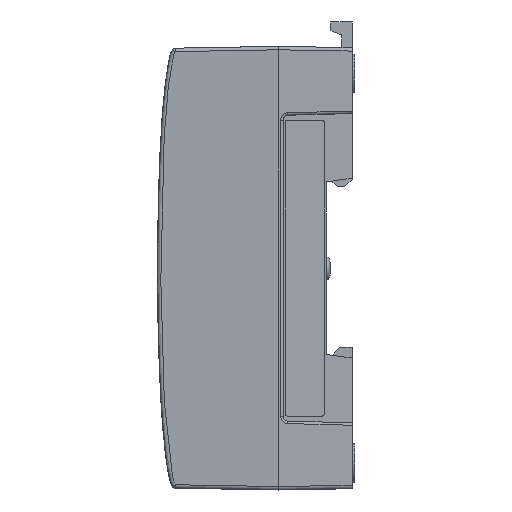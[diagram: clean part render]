
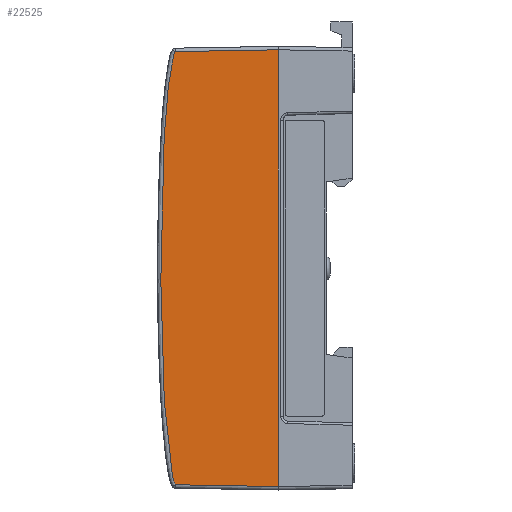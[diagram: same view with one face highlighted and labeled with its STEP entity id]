
A CAD part, left-side view. The second image highlights one B-rep face of the part: STEP entity #22525.
In plain terms, the highlighted planar face has unit normal (-1, 0.018, 0).
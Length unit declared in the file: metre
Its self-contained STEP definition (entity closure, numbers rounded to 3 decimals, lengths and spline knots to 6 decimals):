
#23=B_SPLINE_CURVE_WITH_KNOTS('',3,(#33122,#33123,#33124,#33125,#33126,
#33127,#33128,#33129,#33130,#33131,#33132,#33133,#33134,#33135,#33136,#33137,
#33138,#33139,#33140,#33141,#33142,#33143,#33144),.UNSPECIFIED.,.F.,.F.,
(4,1,1,1,1,1,1,1,1,1,1,1,1,1,1,1,1,1,1,1,4),(0.,0.001385,0.00277,
0.00554,0.00831,0.01108,0.01662,
0.02216,0.0277,0.03324,0.044319,
0.055399,0.060939,0.066479,0.072019,
0.077559,0.080329,0.083099,0.085869,
0.087254,0.088639),.UNSPECIFIED.);
#1595=ORIENTED_EDGE('',*,*,#7725,.T.);
#1596=ORIENTED_EDGE('',*,*,#7865,.T.);
#1597=ORIENTED_EDGE('',*,*,#7866,.T.);
#1598=ORIENTED_EDGE('',*,*,#7867,.T.);
#7725=EDGE_CURVE('',#10935,#10934,#13113,.F.);
#7865=EDGE_CURVE('',#10934,#11014,#13221,.F.);
#7866=EDGE_CURVE('',#11014,#11015,#23,.T.);
#7867=EDGE_CURVE('',#11015,#10935,#13222,.F.);
#10934=VERTEX_POINT('',#32624);
#10935=VERTEX_POINT('',#32626);
#11014=VERTEX_POINT('',#33121);
#11015=VERTEX_POINT('',#33145);
#13113=LINE('',#32625,#15896);
#13221=LINE('',#33120,#16004);
#13222=LINE('',#33146,#16005);
#15896=VECTOR('',#27180,1.);
#16004=VECTOR('',#27458,1.);
#16005=VECTOR('',#27459,1.);
#18605=EDGE_LOOP('',(#1595,#1596,#1597,#1598));
#20052=FACE_BOUND('',#18605,.T.);
#21457=PLANE('',#25731);
#22525=ADVANCED_FACE('',(#20052),#21457,.T.);
#25731=AXIS2_PLACEMENT_3D('',#33119,#27456,#27457);
#27180=DIRECTION('',(0.,0.,-1.));
#27456=DIRECTION('',(-1.,0.017,0.));
#27457=DIRECTION('',(0.017,1.,0.));
#27458=DIRECTION('',(-0.017,-1.,0.017));
#27459=DIRECTION('',(0.017,1.,0.017));
#32624=CARTESIAN_POINT('',(-0.05375,0.,0.0443));
#32625=CARTESIAN_POINT('',(-0.05375,0.,0.));
#32626=CARTESIAN_POINT('',(-0.05375,0.,-0.0443));
#33119=CARTESIAN_POINT('',(-0.05375,0.,0.));
#33120=CARTESIAN_POINT('',(-0.053379,0.021245,0.043929));
#33121=CARTESIAN_POINT('',(-0.053385,0.020909,0.043935));
#33122=CARTESIAN_POINT('',(-0.053385,0.020909,0.043935));
#33123=CARTESIAN_POINT('',(-0.053381,0.021124,0.043525));
#33124=CARTESIAN_POINT('',(-0.053377,0.021367,0.042631));
#33125=CARTESIAN_POINT('',(-0.05337,0.021759,0.040836));
#33126=CARTESIAN_POINT('',(-0.053364,0.022097,0.038558));
#33127=CARTESIAN_POINT('',(-0.053359,0.022417,0.035817));
#33128=CARTESIAN_POINT('',(-0.053353,0.02276,0.032155));
#33129=CARTESIAN_POINT('',(-0.053347,0.023085,0.02757));
#33130=CARTESIAN_POINT('',(-0.053342,0.02337,0.022059));
#33131=CARTESIAN_POINT('',(-0.053338,0.023575,0.016545));
#33132=CARTESIAN_POINT('',(-0.053335,0.02376,0.009193));
#33133=CARTESIAN_POINT('',(-0.053334,0.023847,0.000001));
#33134=CARTESIAN_POINT('',(-0.053335,0.02376,-0.009196));
#33135=CARTESIAN_POINT('',(-0.053339,0.023575,-0.016547));
#33136=CARTESIAN_POINT('',(-0.053342,0.02337,-0.022058));
#33137=CARTESIAN_POINT('',(-0.053347,0.023086,-0.027566));
#33138=CARTESIAN_POINT('',(-0.053353,0.022761,-0.032152));
#33139=CARTESIAN_POINT('',(-0.053359,0.022417,-0.035817));
#33140=CARTESIAN_POINT('',(-0.053364,0.022097,-0.038557));
#33141=CARTESIAN_POINT('',(-0.05337,0.02176,-0.040832));
#33142=CARTESIAN_POINT('',(-0.053377,0.021366,-0.042633));
#33143=CARTESIAN_POINT('',(-0.053381,0.021126,-0.043521));
#33144=CARTESIAN_POINT('',(-0.053385,0.020909,-0.043935));
#33145=CARTESIAN_POINT('',(-0.053385,0.020909,-0.043935));
#33146=CARTESIAN_POINT('',(-0.053737,0.000773,-0.044287));
